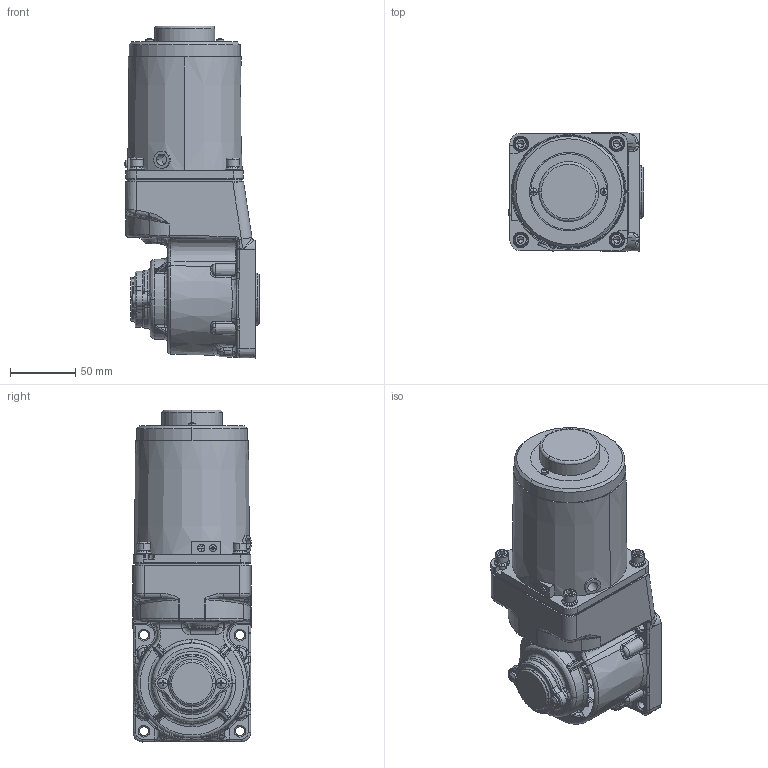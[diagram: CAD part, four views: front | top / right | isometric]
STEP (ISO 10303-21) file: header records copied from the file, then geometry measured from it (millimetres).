
FILE_DESCRIPTION (( 'STEP AP203' ), '1' );
FILE_NAME ('5IK40RGU-C(5GU3RC-180RC)ÐÂ.STEP', '2022-02-23T06:07:31', ( 'PC' ), ( 'Microsoft' ), 'SwSTEP 2.0', 'SolidWorks 2014', '' );
FILE_SCHEMA (( 'CONFIG_CONTROL_DESIGN' ));
Length unit declared in the file: millimetre
Products named in the file (8): 90妗陑俋倛芞; 90RT妗陑怀堤傷裔; 90諾陑怀堤粣; hexagon socket head cap screws gb_GB_FASTENER_SCREWS_HSHCS M5X12-N; ZD-5GU50RC-505-003綴傷裔1; cross recessed pan head screws gb_GB_CROSS_SCREWS_TYPE1 M4X6-6  H type-N; 5IK40RGU-C(5GU3RC-180RC); 5IK40RGU-C(5GU3RC-180RC)陔
Assembly tree (11 placements, depth 2):
  5IK40RGU-C(5GU3RC-180RC)陔
    90妗陑俋倛芞
    90RT妗陑怀堤傷裔
    90諾陑怀堤粣
    hexagon socket head cap screws gb_GB_FASTENER_SCREWS_HSHCS M5X12-N  x4
    ZD-5GU50RC-505-003綴傷裔1
    cross recessed pan head screws gb_GB_CROSS_SCREWS_TYPE1 M4X6-6  H type-N  x2
    5IK40RGU-C(5GU3RC-180RC)
Bounding box: 103.85 x 90.89 x 254.24 mm (x, y, z)
Volume: 1485520.3 mm3; surface area: 175234.9 mm2
Topology: 31 solids, 31 shells, 1915 faces, 4713 edges, 2795 vertices
Faces by surface type: plane 558, bspline 479, cone 410, cylinder 381, torus 83, sphere 4
Entity records: 80699 total; most frequent: CARTESIAN_POINT 41024, ORIENTED_EDGE 8722, DIRECTION 7284, EDGE_CURVE 4361, AXIS2_PLACEMENT_3D 2900, VERTEX_POINT 2652, EDGE_LOOP 1911, ADVANCED_FACE 1815
